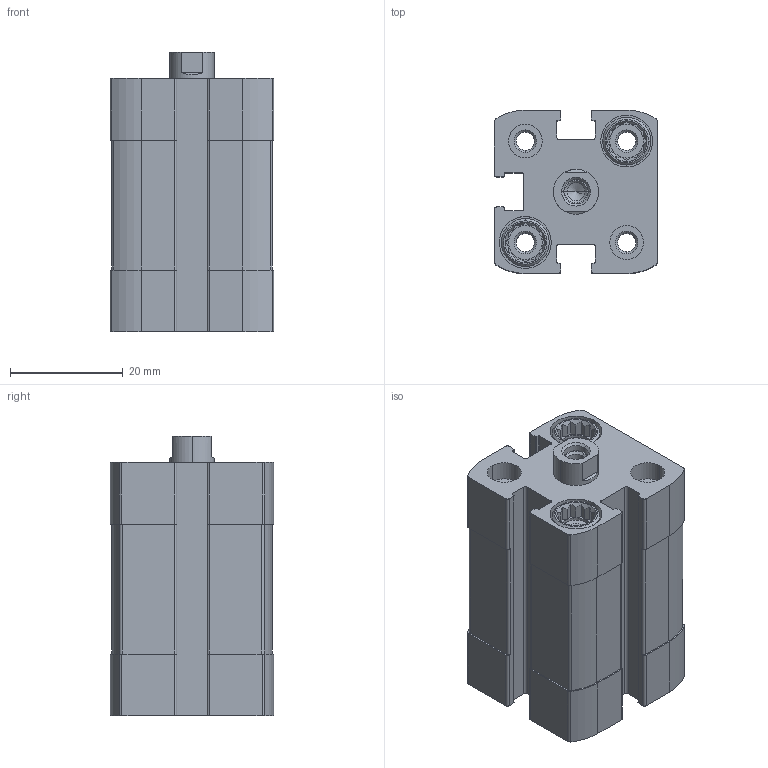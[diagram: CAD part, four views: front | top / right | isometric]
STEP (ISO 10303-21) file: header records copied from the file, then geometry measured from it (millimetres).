
FILE_DESCRIPTION (( 'STEP AP203' ), '1' );
FILE_NAME ('CCN16-10F.STEP', '2017-03-28T13:26:44', ( '' ), ( '' ), 'SwSTEP 2.0', 'SolidWorks 2016', '' );
FILE_SCHEMA (( 'CONFIG_CONTROL_DESIGN' ));
Length unit declared in the file: millimetre
Products named in the file (3): CCN16-10F; CCN-10-(Z); CCN-10_(KS)
Assembly tree (2 placements, depth 2):
  CCN16-10F
    CCN-10-(Z)
    CCN-10_(KS)
Bounding box: 29 x 29 x 49.7 mm (x, y, z)
Volume: 27956.9 mm3; surface area: 14657.4 mm2
Topology: 2 solids, 2 shells, 363 faces, 940 edges, 615 vertices
Faces by surface type: plane 187, cylinder 134, cone 42
Entity records: 11521 total; most frequent: CARTESIAN_POINT 2215, DIRECTION 1896, ORIENTED_EDGE 1876, EDGE_CURVE 938, AXIS2_PLACEMENT_3D 688, VERTEX_POINT 615, LINE 520, VECTOR 520
